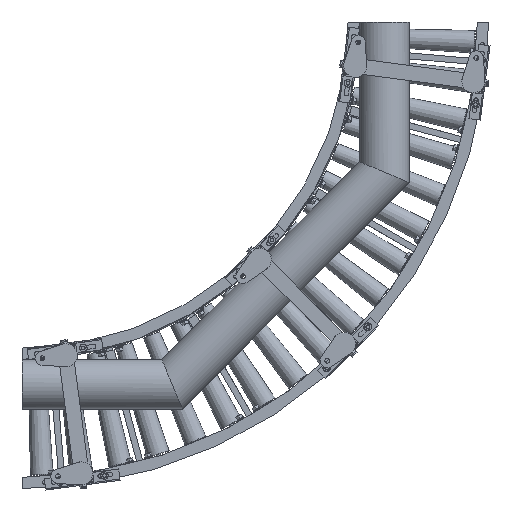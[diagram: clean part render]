
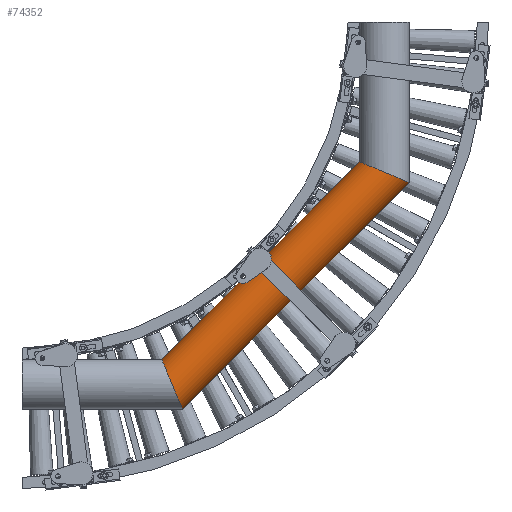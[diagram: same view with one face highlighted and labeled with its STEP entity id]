
A CAD part, front view. The second image highlights one B-rep face of the part: STEP entity #74352.
In plain terms, the highlighted cylindrical face has radius 67.024 mm (diameter 134.048 mm), a partial arc.
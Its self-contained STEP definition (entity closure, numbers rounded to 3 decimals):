
#241 = DIRECTION ( 'NONE',  ( -0.707, 0., -0.707 ) ) ;
#1468 =( BOUNDED_CURVE ( )  B_SPLINE_CURVE ( 3, ( #146449, #65072, #12126, #39481 ),
 .UNSPECIFIED., .F., .F. ) 
 B_SPLINE_CURVE_WITH_KNOTS ( ( 4, 4 ),
 ( 0.147, 2.994 ),
 .UNSPECIFIED. ) 
 CURVE ( )  GEOMETRIC_REPRESENTATION_ITEM ( )  RATIONAL_B_SPLINE_CURVE ( ( 1., 0.431, 0.431, 1. ) ) 
 REPRESENTATION_ITEM ( '' )  );
#12126 = CARTESIAN_POINT ( 'NONE',  ( 915.73, -267.933, -379.317 ) ) ;
#13046 = CARTESIAN_POINT ( 'NONE',  ( 1033.3, -166.5, -428.017 ) ) ;
#16447 = ORIENTED_EDGE ( 'NONE', *, *, #98131, .F. ) ;
#19642 = ORIENTED_EDGE ( 'NONE', *, *, #172010, .T. ) ;
#20931 = EDGE_LOOP ( 'NONE', ( #16447, #19642, #30487, #132403 ) ) ;
#21658 = CARTESIAN_POINT ( 'NONE',  ( 1033.3, -166.5, -428.017 ) ) ;
#27442 = DIRECTION ( 'NONE',  ( -0.707, 0., -0.707 ) ) ;
#30487 = ORIENTED_EDGE ( 'NONE', *, *, #38149, .T. ) ;
#37230 = VERTEX_POINT ( 'NONE', #13046 ) ;
#38149 = EDGE_CURVE ( 'NONE', #99104, #176342, #80800, .T. ) ;
#39481 = CARTESIAN_POINT ( 'NONE',  ( 900.7, -166.5, -373.092 ) ) ;
#47342 = VECTOR ( 'NONE', #158349, 1000. ) ;
#55643 = CARTESIAN_POINT ( 'NONE',  ( 373.092, -166.5, -900.7 ) ) ;
#59319 = CARTESIAN_POINT ( 'NONE',  ( 421.791, -267.933, -1018.27 ) ) ;
#65072 = CARTESIAN_POINT ( 'NONE',  ( 1018.27, -267.933, -421.791 ) ) ;
#70569 = CARTESIAN_POINT ( 'NONE',  ( 900.7, -166.5, -373.092 ) ) ;
#74352 = ADVANCED_FACE ( 'NONE', ( #143468 ), #141425, .T. ) ;
#78781 = VECTOR ( 'NONE', #241, 1000. ) ;
#80800 = LINE ( 'NONE', #122061, #78781 ) ;
#81096 = CARTESIAN_POINT ( 'NONE',  ( 428.017, -166.5, -1033.3 ) ) ;
#85362 = CARTESIAN_POINT ( 'NONE',  ( 373.092, -166.5, -900.7 ) ) ;
#88913 = EDGE_CURVE ( 'NONE', #163360, #176342, #147959, .T. ) ;
#98131 = EDGE_CURVE ( 'NONE', #37230, #163360, #115332, .T. ) ;
#99104 = VERTEX_POINT ( 'NONE', #70569 ) ;
#100801 = CARTESIAN_POINT ( 'NONE',  ( 428.017, -166.5, -1033.3 ) ) ;
#115332 = LINE ( 'NONE', #21658, #47342 ) ;
#122061 = CARTESIAN_POINT ( 'NONE',  ( 939.538, -166.5, -334.254 ) ) ;
#132403 = ORIENTED_EDGE ( 'NONE', *, *, #88913, .F. ) ;
#141425 = CYLINDRICAL_SURFACE ( 'NONE', #164034, 67.024 ) ;
#143468 = FACE_OUTER_BOUND ( 'NONE', #20931, .T. ) ;
#146449 = CARTESIAN_POINT ( 'NONE',  ( 1033.3, -166.5, -428.017 ) ) ;
#147959 =( BOUNDED_CURVE ( )  B_SPLINE_CURVE ( 3, ( #100801, #59319, #166843, #85362 ),
 .UNSPECIFIED., .F., .F. ) 
 B_SPLINE_CURVE_WITH_KNOTS ( ( 4, 4 ),
 ( 0.147, 2.994 ),
 .UNSPECIFIED. ) 
 CURVE ( )  GEOMETRIC_REPRESENTATION_ITEM ( )  RATIONAL_B_SPLINE_CURVE ( ( 1., 0.431, 0.431, 1. ) ) 
 REPRESENTATION_ITEM ( '' )  );
#158349 = DIRECTION ( 'NONE',  ( -0.707, 0., -0.707 ) ) ;
#162920 = CARTESIAN_POINT ( 'NONE',  ( 986.419, -156.676, -381.135 ) ) ;
#163360 = VERTEX_POINT ( 'NONE', #81096 ) ;
#164034 = AXIS2_PLACEMENT_3D ( 'NONE', #162920, #27442, #165294 ) ;
#165294 = DIRECTION ( 'NONE',  ( -0.707, 0., 0.707 ) ) ;
#166843 = CARTESIAN_POINT ( 'NONE',  ( 379.317, -267.933, -915.73 ) ) ;
#172010 = EDGE_CURVE ( 'NONE', #37230, #99104, #1468, .T. ) ;
#176342 = VERTEX_POINT ( 'NONE', #55643 ) ;
